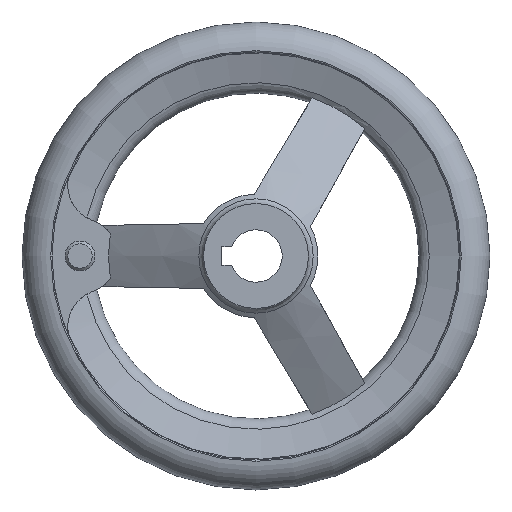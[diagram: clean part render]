
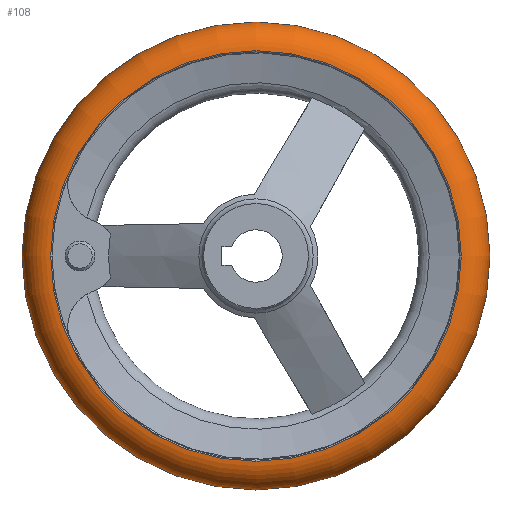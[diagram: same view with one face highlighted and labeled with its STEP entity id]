
A CAD part, left-side view. The second image highlights one B-rep face of the part: STEP entity #108.
In plain terms, the highlighted toroidal (fillet/blend) face has major radius 54.493 mm and minor radius 8.007 mm.
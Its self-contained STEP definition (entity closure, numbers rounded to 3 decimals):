
#108 = ADVANCED_FACE( '', ( #206, #207, #208 ), #209, .T. );
#206 = FACE_BOUND( '', #330, .T. );
#207 = FACE_OUTER_BOUND( '', #331, .T. );
#208 = FACE_OUTER_BOUND( '', #332, .T. );
#209 = TOROIDAL_SURFACE( '', #333, 54.493, 8.007 );
#330 = VERTEX_LOOP( '', #677 );
#331 = EDGE_LOOP( '', ( #678 ) );
#332 = EDGE_LOOP( '', ( #679 ) );
#333 = AXIS2_PLACEMENT_3D( '', #680, #681, #682 );
#677 = VERTEX_POINT( '', #880 );
#678 = ORIENTED_EDGE( '', *, *, #881, .T. );
#679 = ORIENTED_EDGE( '', *, *, #882, .F. );
#680 = CARTESIAN_POINT( '', ( 28., 0., 0. ) );
#681 = DIRECTION( '', ( 1., 0., 0. ) );
#682 = DIRECTION( '', ( 0., 1., 0. ) );
#880 = CARTESIAN_POINT( '', ( 28., 62.5, 0. ) );
#881 = EDGE_CURVE( '', #1067, #1067, #1068, .T. );
#882 = EDGE_CURVE( '', #1069, #1069, #1070, .T. );
#1067 = VERTEX_POINT( '', #1655 );
#1068 = CIRCLE( '', #1656, 54.833 );
#1069 = VERTEX_POINT( '', #1657 );
#1070 = CIRCLE( '', #1658, 54.833 );
#1655 = CARTESIAN_POINT( '', ( 20., 54.833, 0. ) );
#1656 = AXIS2_PLACEMENT_3D( '', #1822, #1823, #1824 );
#1657 = CARTESIAN_POINT( '', ( 36., 54.833, 0. ) );
#1658 = AXIS2_PLACEMENT_3D( '', #1825, #1826, #1827 );
#1822 = CARTESIAN_POINT( '', ( 20., 0., 0. ) );
#1823 = DIRECTION( '', ( 1., 0., 0. ) );
#1824 = DIRECTION( '', ( 0., 1., 0. ) );
#1825 = CARTESIAN_POINT( '', ( 36., 0., 0. ) );
#1826 = DIRECTION( '', ( 1., 0., 0. ) );
#1827 = DIRECTION( '', ( 0., 1., 0. ) );
